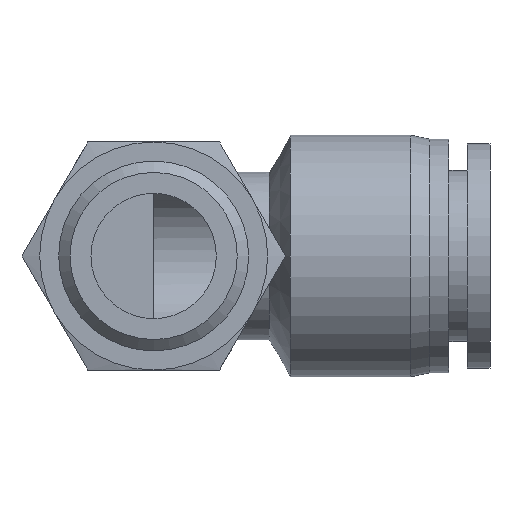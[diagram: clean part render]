
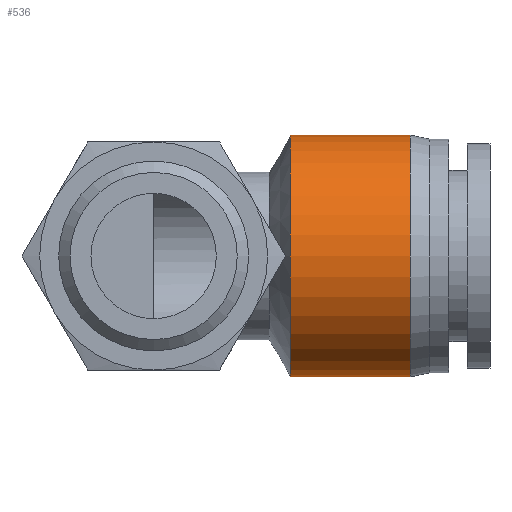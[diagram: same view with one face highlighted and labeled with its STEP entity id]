
A CAD part, front view. The second image highlights one B-rep face of the part: STEP entity #536.
In plain terms, the highlighted cylindrical face has radius 10.6 mm (diameter 21.2 mm), a full revolution.
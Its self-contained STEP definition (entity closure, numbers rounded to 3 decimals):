
#77=FACE_BOUND($,#178,.T.);
#94=CYLINDRICAL_SURFACE($,#605,10.6);
#128=FACE_OUTER_BOUND($,#177,.T.);
#177=EDGE_LOOP($,(#474));
#178=EDGE_LOOP($,(#475));
#217=CIRCLE($,#604,10.6);
#218=CIRCLE($,#606,10.6);
#281=VERTEX_POINT($,#980);
#282=VERTEX_POINT($,#983);
#348=EDGE_CURVE($,#281,#281,#217,.T.);
#349=EDGE_CURVE($,#282,#282,#218,.T.);
#474=ORIENTED_EDGE($,*,*,#349,.F.);
#475=ORIENTED_EDGE($,*,*,#348,.T.);
#536=ADVANCED_FACE($,(#128,#77),#94,.T.);
#604=AXIS2_PLACEMENT_3D($,#981,#745,#746);
#605=AXIS2_PLACEMENT_3D($,#982,#747,#748);
#606=AXIS2_PLACEMENT_3D($,#984,#749,#750);
#745=DIRECTION('center_axis',(1.,0.,0.));
#746=DIRECTION('ref_axis',(0.,1.,0.));
#747=DIRECTION('center_axis',(1.,0.,0.));
#748=DIRECTION('ref_axis',(0.,1.,0.));
#749=DIRECTION('center_axis',(1.,0.,0.));
#750=DIRECTION('ref_axis',(0.,1.,0.));
#980=CARTESIAN_POINT('',(12.,10.6,0.));
#981=CARTESIAN_POINT('Origin',(12.,0.,0.));
#982=CARTESIAN_POINT('Origin',(17.25,0.,0.));
#983=CARTESIAN_POINT('',(22.5,10.6,0.));
#984=CARTESIAN_POINT('Origin',(22.5,0.,0.));
